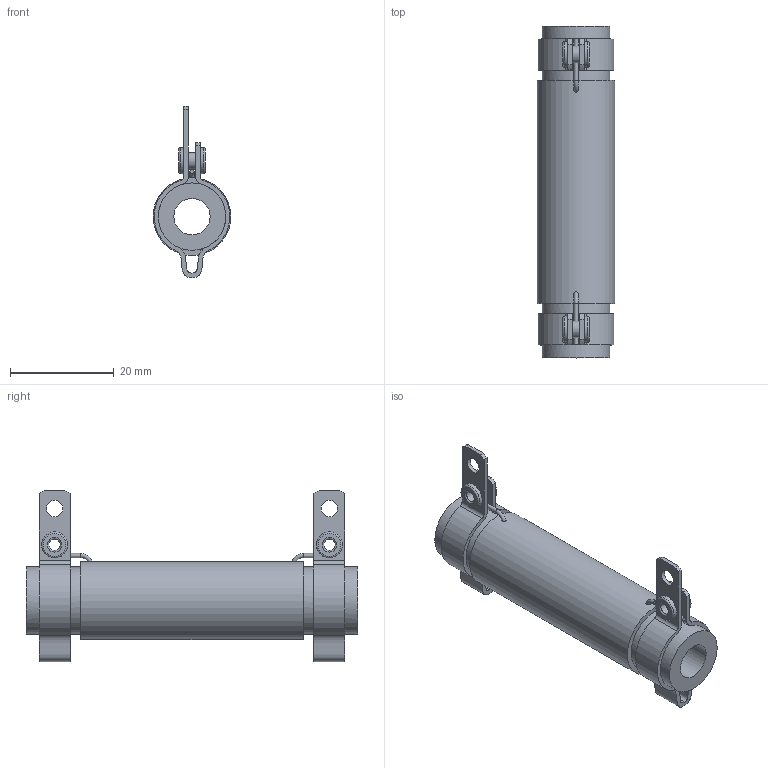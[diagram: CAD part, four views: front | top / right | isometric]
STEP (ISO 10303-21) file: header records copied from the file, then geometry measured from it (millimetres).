
FILE_DESCRIPTION(/* description */ (''),/* implementation_level */ '2;1');
FILE_NAME(/* name */ 'C:\_Vault\Dati\CATALOGO\RC-RS\TC\RC00025.stp',/* time_stamp */ '2014-01-22T17:31:52+01:00',/* author */ ('stefano'),/* organization */ (''),/* preprocessor_version */ 'ST-DEVELOPER v15.2',/* originating_system */ 'Autodesk Inventor 2014',/* authorisation */ '');
FILE_SCHEMA (('AUTOMOTIVE_DESIGN { 1 0 10303 214 3 1 1 }'));
Length unit declared in the file: millimetre
Products named in the file (1): RC00025
Bounding box: 15 x 64 x 33.03 mm (x, y, z)
Volume: 8640.8 mm3; surface area: 5922.7 mm2
Topology: 1 solids, 5 shells, 96 faces, 237 edges, 157 vertices
Faces by surface type: cylinder 42, plane 36, torus 10, bspline 8
Full cylindrical faces by diameter (mm): 0.4 x2, 0.8 x4, 2.2 x2, 3.2 x4, 5 x4, 7 x1, 13 x2, 15 x1
Entity records: 3251 total; most frequent: CARTESIAN_POINT 963, DIRECTION 446, ORIENTED_EDGE 388, EDGE_CURVE 194, AXIS2_PLACEMENT_3D 187, EDGE_LOOP 156, VERTEX_POINT 146, CIRCLE 98
